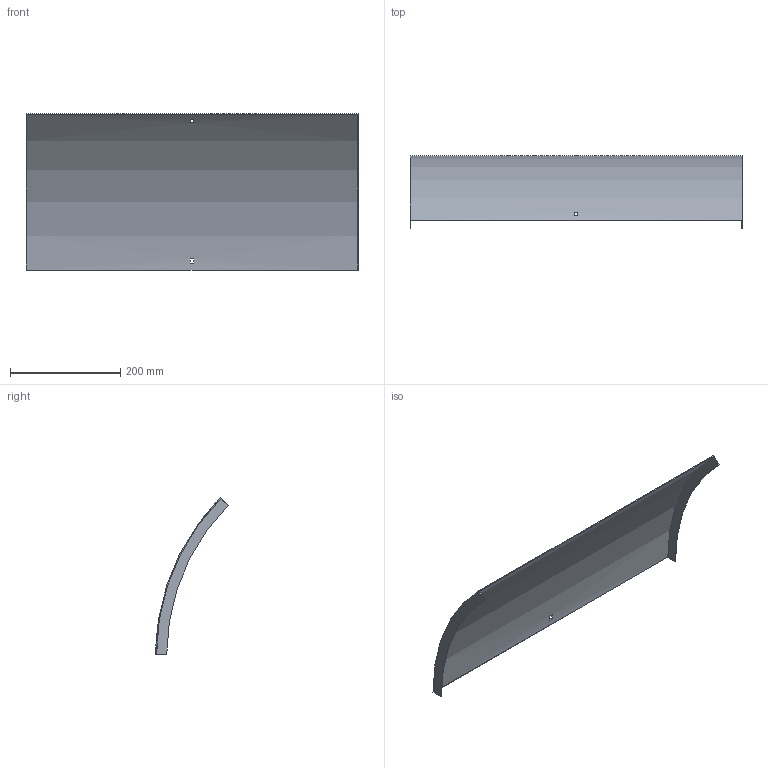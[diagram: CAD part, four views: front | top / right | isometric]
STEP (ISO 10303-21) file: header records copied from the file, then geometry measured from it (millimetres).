
FILE_DESCRIPTION (( 'STEP AP214' ), '1' );
FILE_NAME ('B2_34N3D600.step', '2025-02-21T10:36:38', ( '' ), ( '' ), 'SwSTEP 2.0', 'SolidWorks 2023', '' );
FILE_SCHEMA (( 'AUTOMOTIVE_DESIGN' ));
Length unit declared in the file: millimetre
Products named in the file (1): B2_34N3D600
Bounding box: 603 x 131.74 x 283.9 mm (x, y, z)
Volume: 301546.8 mm3; surface area: 404976.2 mm2
Topology: 1 solids, 1 shells, 18 faces, 48 edges, 32 vertices
Faces by surface type: plane 14, cylinder 4
Entity records: 599 total; most frequent: DIRECTION 102, CARTESIAN_POINT 99, ORIENTED_EDGE 96, EDGE_CURVE 48, AXIS2_PLACEMENT_3D 35, VERTEX_POINT 32, LINE 32, VECTOR 32
